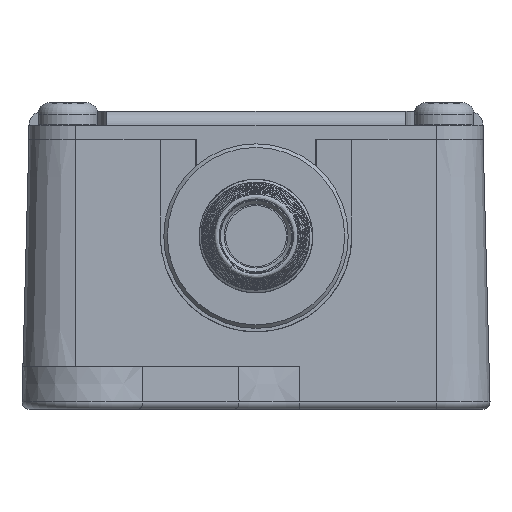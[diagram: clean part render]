
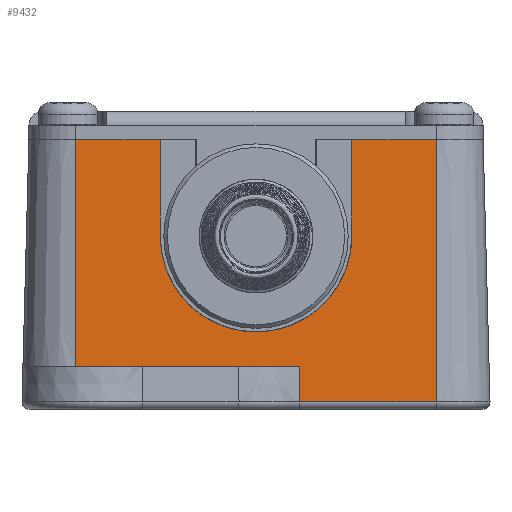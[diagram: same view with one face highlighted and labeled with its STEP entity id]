
A CAD part, left-side view. The second image highlights one B-rep face of the part: STEP entity #9432.
In plain terms, the highlighted planar face has unit normal (-1, 0, 0.026).
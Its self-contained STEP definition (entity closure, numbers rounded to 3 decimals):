
#29=ELLIPSE('',#10124,6.752,6.75);
#175=LINE('',#26216,#845);
#219=LINE('',#26350,#889);
#220=LINE('',#26353,#890);
#221=LINE('',#26355,#891);
#222=LINE('',#26356,#892);
#223=LINE('',#26360,#893);
#224=LINE('',#26362,#894);
#225=LINE('',#26364,#895);
#226=LINE('',#26366,#896);
#845=VECTOR('',#11389,1000.);
#889=VECTOR('',#11491,1000.);
#890=VECTOR('',#11492,1000.);
#891=VECTOR('',#11493,1000.);
#892=VECTOR('',#11494,1000.);
#893=VECTOR('',#11497,1000.);
#894=VECTOR('',#11498,1000.);
#895=VECTOR('',#11499,1000.);
#896=VECTOR('',#11500,1000.);
#1931=PLANE('',#10123);
#2652=ORIENTED_EDGE('',*,*,#5081,.T.);
#2653=ORIENTED_EDGE('',*,*,#5082,.T.);
#2654=ORIENTED_EDGE('',*,*,#5083,.T.);
#2655=ORIENTED_EDGE('',*,*,#5016,.F.);
#2656=ORIENTED_EDGE('',*,*,#5084,.F.);
#2657=ORIENTED_EDGE('',*,*,#5085,.F.);
#2658=ORIENTED_EDGE('',*,*,#5086,.F.);
#2659=ORIENTED_EDGE('',*,*,#5087,.F.);
#2660=ORIENTED_EDGE('',*,*,#5088,.T.);
#2661=ORIENTED_EDGE('',*,*,#5089,.T.);
#5016=EDGE_CURVE('',#6346,#6347,#175,.F.);
#5081=EDGE_CURVE('',#6408,#6409,#219,.T.);
#5082=EDGE_CURVE('',#6409,#6410,#220,.T.);
#5083=EDGE_CURVE('',#6410,#6347,#221,.F.);
#5084=EDGE_CURVE('',#6411,#6346,#222,.F.);
#5085=EDGE_CURVE('',#6412,#6411,#29,.T.);
#5086=EDGE_CURVE('',#6413,#6412,#223,.F.);
#5087=EDGE_CURVE('',#6414,#6413,#224,.F.);
#5088=EDGE_CURVE('',#6414,#6415,#225,.T.);
#5089=EDGE_CURVE('',#6415,#6408,#226,.F.);
#6346=VERTEX_POINT('',#26215);
#6347=VERTEX_POINT('',#26217);
#6408=VERTEX_POINT('',#26351);
#6409=VERTEX_POINT('',#26352);
#6410=VERTEX_POINT('',#26354);
#6411=VERTEX_POINT('',#26357);
#6412=VERTEX_POINT('',#26359);
#6413=VERTEX_POINT('',#26361);
#6414=VERTEX_POINT('',#26363);
#6415=VERTEX_POINT('',#26365);
#7741=EDGE_LOOP('',(#2652,#2653,#2654,#2655,#2656,#2657,#2658,#2659,#2660,
#2661));
#8382=FACE_BOUND('',#7741,.T.);
#9432=ADVANCED_FACE('',(#8382),#1931,.T.);
#10123=AXIS2_PLACEMENT_3D('',#26349,#11489,#11490);
#10124=AXIS2_PLACEMENT_3D('',#26358,#11495,#11496);
#11389=DIRECTION('',(0.,1.,0.));
#11489=DIRECTION('',(-1.,0.,0.026));
#11490=DIRECTION('',(0.026,0.,1.));
#11491=DIRECTION('',(-0.026,0.,-1.));
#11492=DIRECTION('',(0.,-1.,0.));
#11493=DIRECTION('',(-0.026,0.,-1.));
#11494=DIRECTION('',(-0.026,0.,-1.));
#11495=DIRECTION('',(-1.,0.,0.026));
#11496=DIRECTION('',(-0.026,0.,-1.));
#11497=DIRECTION('',(0.026,0.,1.));
#11498=DIRECTION('',(0.,1.,0.));
#11499=DIRECTION('',(-0.026,0.,-1.));
#11500=DIRECTION('',(0.,1.,0.));
#26215=CARTESIAN_POINT('',(-54.502,-6.75,19.));
#26216=CARTESIAN_POINT('',(-54.502,0.,19.));
#26217=CARTESIAN_POINT('',(-54.502,-12.7,19.));
#26349=CARTESIAN_POINT('',(-55.,0.,0.));
#26350=CARTESIAN_POINT('',(-55.,-3.056,0.));
#26351=CARTESIAN_POINT('',(-54.921,-3.056,3.));
#26352=CARTESIAN_POINT('',(-54.987,-3.056,0.513));
#26353=CARTESIAN_POINT('',(-54.987,0.,0.513));
#26354=CARTESIAN_POINT('',(-54.987,-12.7,0.513));
#26355=CARTESIAN_POINT('',(-55.,-12.7,0.));
#26356=CARTESIAN_POINT('',(-55.,-6.75,0.));
#26357=CARTESIAN_POINT('',(-54.681,-6.75,12.2));
#26358=CARTESIAN_POINT('',(-54.681,0.,12.2));
#26359=CARTESIAN_POINT('',(-54.681,6.75,12.2));
#26360=CARTESIAN_POINT('',(-55.,6.75,0.));
#26361=CARTESIAN_POINT('',(-54.502,6.75,19.));
#26362=CARTESIAN_POINT('',(-54.502,0.,19.));
#26363=CARTESIAN_POINT('',(-54.502,12.7,19.));
#26364=CARTESIAN_POINT('',(-55.,12.7,0.));
#26365=CARTESIAN_POINT('',(-54.921,12.7,3.));
#26366=CARTESIAN_POINT('',(-54.921,0.,3.));
